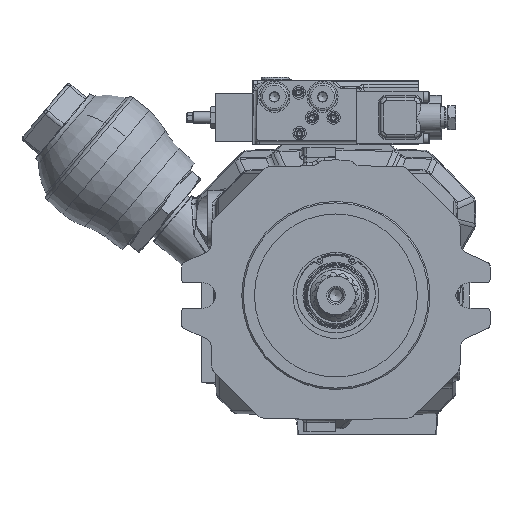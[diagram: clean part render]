
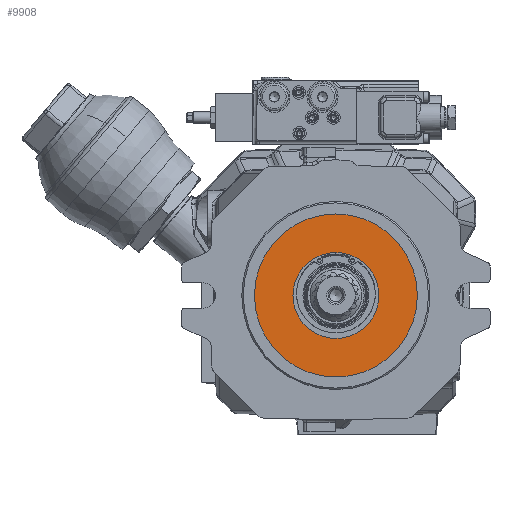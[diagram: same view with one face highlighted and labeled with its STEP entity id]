
A CAD part, left-side view. The second image highlights one B-rep face of the part: STEP entity #9908.
In plain terms, the highlighted planar face has unit normal (-1, 0, 0).
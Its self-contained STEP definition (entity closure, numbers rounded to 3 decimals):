
#1297=PLANE('',#42419);
#2406=FACE_BOUND('',#15017,.T.);
#2407=FACE_BOUND('',#15018,.T.);
#9908=ADVANCED_FACE('',(#2406,#2407),#1297,.T.);
#15017=EDGE_LOOP('',(#23017));
#15018=EDGE_LOOP('',(#23018));
#23017=ORIENTED_EDGE('',*,*,#35629,.T.);
#23018=ORIENTED_EDGE('',*,*,#35630,.F.);
#31106=VERTEX_POINT('',#68945);
#31107=VERTEX_POINT('',#68948);
#35629=EDGE_CURVE('',#31106,#31106,#39688,.T.);
#35630=EDGE_CURVE('',#31107,#31107,#39689,.T.);
#39688=CIRCLE('',#42416,29.);
#39689=CIRCLE('',#42418,55.);
#42416=AXIS2_PLACEMENT_3D('',#68944,#49313,#49314);
#42418=AXIS2_PLACEMENT_3D('',#68947,#49317,#49318);
#42419=AXIS2_PLACEMENT_3D('',#68949,#49319,#49320);
#49313=DIRECTION('',(1.,0.,0.));
#49314=DIRECTION('',(0.,0.,-1.));
#49317=DIRECTION('',(1.,0.,0.));
#49318=DIRECTION('',(0.,0.,-1.));
#49319=DIRECTION('',(-1.,0.,0.));
#49320=DIRECTION('',(0.,0.,1.));
#68944=CARTESIAN_POINT('',(-11.7,0.,0.));
#68945=CARTESIAN_POINT('',(-11.7,0.,-29.));
#68947=CARTESIAN_POINT('',(-11.7,0.,0.));
#68948=CARTESIAN_POINT('',(-11.7,0.,-55.));
#68949=CARTESIAN_POINT('',(-11.7,0.,55.));
